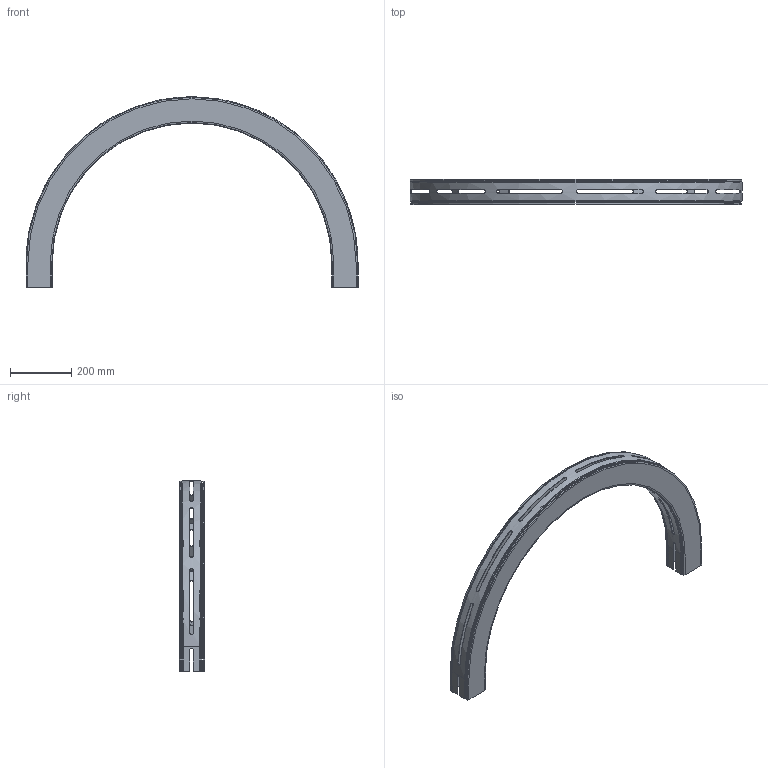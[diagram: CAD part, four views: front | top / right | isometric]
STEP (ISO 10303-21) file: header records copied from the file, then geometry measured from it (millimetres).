
FILE_DESCRIPTION(/* description */ ('GLIDKURVA SERIE 530'),/* implementation_level */ '2;1');
FILE_NAME(/* name */ '530-5375+830-2000-01.stp',/* time_stamp */ '2022-09-20T15:11:36+02:00',/* author */ ('Mathias.Dore'),/* organization */ ('CARRYLINE'),/* preprocessor_version */ 'ST-DEVELOPER v19.2',/* originating_system */ 'Autodesk Inventor 2023',/* authorisation */ '');
FILE_SCHEMA (('AUTOMOTIVE_DESIGN { 1 0 10303 214 3 1 1 }'));
Length unit declared in the file: millimetre
Products named in the file (1): 530-5375+830-2000-01
Bounding box: 1086 x 82 x 623 mm (x, y, z)
Volume: 2506365 mm3; surface area: 1196117.1 mm2
Topology: 2 solids, 2 shells, 211 faces, 590 edges, 388 vertices
Faces by surface type: plane 133, bspline 40, cylinder 30, torus 4, cone 4
Entity records: 8269 total; most frequent: CARTESIAN_POINT 2850, ORIENTED_EDGE 1180, DIRECTION 978, EDGE_CURVE 590, VERTEX_POINT 388, LINE 386, VECTOR 386, AXIS2_PLACEMENT_3D 296
